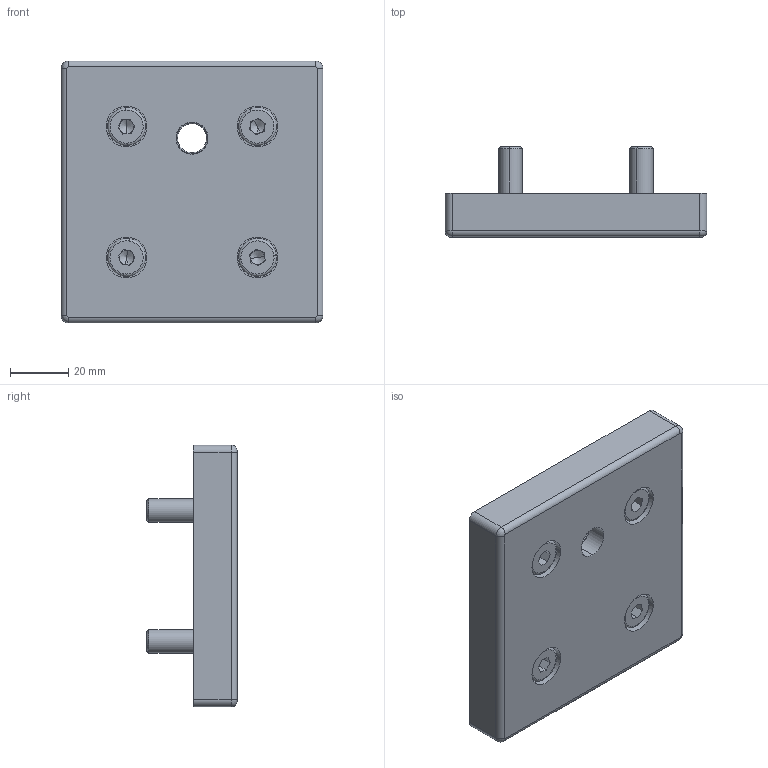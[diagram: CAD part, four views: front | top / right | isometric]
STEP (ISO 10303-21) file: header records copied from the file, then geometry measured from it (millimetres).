
FILE_DESCRIPTION (( 'STEP AP214' ), '1' );
FILE_NAME ('1.8137 KPS yksikön laakerilevy 90X90 reiällä.STEP', '2026-03-30T06:50:37', ( '' ), ( '' ), 'SwSTEP 2.0', 'SolidWorks 2025', '' );
FILE_SCHEMA (( 'AUTOMOTIVE_DESIGN' ));
Length unit declared in the file: millimetre
Products named in the file (1): 1.8137 KPS yksikön laakerilevy 90X90 reiällä
Bounding box: 90 x 31 x 90 mm (x, y, z)
Volume: 121427.7 mm3; surface area: 29849.2 mm2
Topology: 6 solids, 6 shells, 177 faces, 384 edges, 228 vertices
Faces by surface type: plane 77, cylinder 56, torus 28, cone 16
Entity records: 6801 total; most frequent: DIRECTION 928, CARTESIAN_POINT 782, ORIENTED_EDGE 752, EDGE_CURVE 376, AXIS2_PLACEMENT_3D 374, VERTEX_POINT 228, EDGE_LOOP 206, CIRCLE 196
